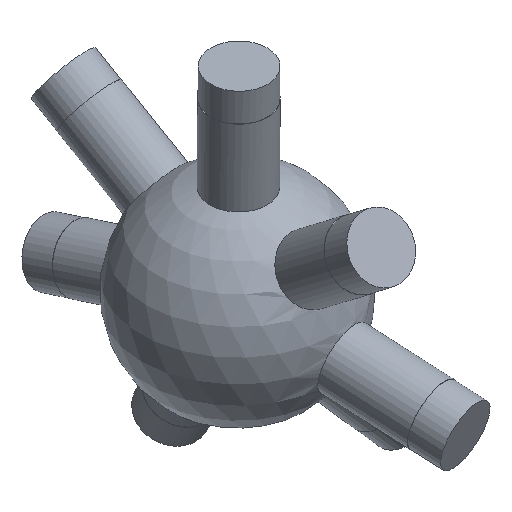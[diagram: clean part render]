
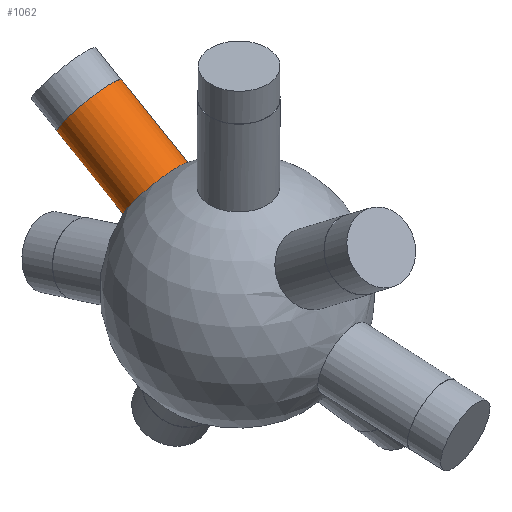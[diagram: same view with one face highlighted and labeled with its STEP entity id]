
A CAD part, isometric view. The second image highlights one B-rep face of the part: STEP entity #1062.
In plain terms, the highlighted cylindrical face has radius 6 mm (diameter 12 mm), a full revolution.
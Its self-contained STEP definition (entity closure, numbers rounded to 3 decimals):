
#33 = SPHERICAL_SURFACE('',#34,20.);
#34 = AXIS2_PLACEMENT_3D('',#35,#36,#37);
#35 = CARTESIAN_POINT('',(0.,0.,0.));
#36 = DIRECTION('',(0.,0.,1.));
#37 = DIRECTION('',(1.,0.,-0.));
#601 = EDGE_CURVE('',#602,#602,#604,.T.);
#602 = VERTEX_POINT('',#603);
#603 = CARTESIAN_POINT('',(-0.911,12.468,
    15.612));
#604 = SURFACE_CURVE('',#605,(#610,#679),.PCURVE_S1.);
#605 = CIRCLE('',#606,6.);
#606 = AXIS2_PLACEMENT_3D('',#607,#608,#609);
#607 = CARTESIAN_POINT('',(-0.911,15.815,
    10.632));
#608 = DIRECTION('',(-0.048,0.829,0.557)
  );
#609 = DIRECTION('',(0.,-0.558,0.83)
  );
#610 = PCURVE('',#33,#611);
#611 = DEFINITIONAL_REPRESENTATION('',(#612),#678);
#612 = B_SPLINE_CURVE_WITH_KNOTS('',8,(#613,#614,#615,#616,#617,#618,
    #619,#620,#621,#622,#623,#624,#625,#626,#627,#628,#629,#630,#631,
    #632,#633,#634,#635,#636,#637,#638,#639,#640,#641,#642,#643,#644,
    #645,#646,#647,#648,#649,#650,#651,#652,#653,#654,#655,#656,#657,
    #658,#659,#660,#661,#662,#663,#664,#665,#666,#667,#668,#669,#670,
    #671,#672,#673,#674,#675,#676,#677),.UNSPECIFIED.,.T.,.F.,(9,7,7,7,7
    ,7,7,7,7,9),(0.,0.393,1.129,1.773,
    2.901,3.746,4.381,5.332,
    5.808,6.283),.UNSPECIFIED.);
#613 = CARTESIAN_POINT('',(1.644,0.896));
#614 = CARTESIAN_POINT('',(1.62,0.896));
#615 = CARTESIAN_POINT('',(1.597,0.896));
#616 = CARTESIAN_POINT('',(1.573,0.894));
#617 = CARTESIAN_POINT('',(1.55,0.892));
#618 = CARTESIAN_POINT('',(1.527,0.888));
#619 = CARTESIAN_POINT('',(1.505,0.883));
#620 = CARTESIAN_POINT('',(1.484,0.877));
#621 = CARTESIAN_POINT('',(1.425,0.858));
#622 = CARTESIAN_POINT('',(1.39,0.842));
#623 = CARTESIAN_POINT('',(1.359,0.823));
#624 = CARTESIAN_POINT('',(1.333,0.802));
#625 = CARTESIAN_POINT('',(1.311,0.779));
#626 = CARTESIAN_POINT('',(1.294,0.754));
#627 = CARTESIAN_POINT('',(1.281,0.728));
#628 = CARTESIAN_POINT('',(1.263,0.678));
#629 = CARTESIAN_POINT('',(1.258,0.654));
#630 = CARTESIAN_POINT('',(1.256,0.63));
#631 = CARTESIAN_POINT('',(1.257,0.605));
#632 = CARTESIAN_POINT('',(1.26,0.581));
#633 = CARTESIAN_POINT('',(1.265,0.557));
#634 = CARTESIAN_POINT('',(1.273,0.534));
#635 = CARTESIAN_POINT('',(1.299,0.472));
#636 = CARTESIAN_POINT('',(1.322,0.434));
#637 = CARTESIAN_POINT('',(1.35,0.4));
#638 = CARTESIAN_POINT('',(1.383,0.369));
#639 = CARTESIAN_POINT('',(1.42,0.343));
#640 = CARTESIAN_POINT('',(1.459,0.322));
#641 = CARTESIAN_POINT('',(1.501,0.306));
#642 = CARTESIAN_POINT('',(1.576,0.289));
#643 = CARTESIAN_POINT('',(1.609,0.284));
#644 = CARTESIAN_POINT('',(1.642,0.284));
#645 = CARTESIAN_POINT('',(1.675,0.286));
#646 = CARTESIAN_POINT('',(1.708,0.292));
#647 = CARTESIAN_POINT('',(1.74,0.301));
#648 = CARTESIAN_POINT('',(1.771,0.313));
#649 = CARTESIAN_POINT('',(1.823,0.339));
#650 = CARTESIAN_POINT('',(1.844,0.352));
#651 = CARTESIAN_POINT('',(1.865,0.367));
#652 = CARTESIAN_POINT('',(1.884,0.383));
#653 = CARTESIAN_POINT('',(1.902,0.4));
#654 = CARTESIAN_POINT('',(1.918,0.419));
#655 = CARTESIAN_POINT('',(1.933,0.438));
#656 = CARTESIAN_POINT('',(1.966,0.49));
#657 = CARTESIAN_POINT('',(1.982,0.523));
#658 = CARTESIAN_POINT('',(1.994,0.557));
#659 = CARTESIAN_POINT('',(2.002,0.593));
#660 = CARTESIAN_POINT('',(2.003,0.629));
#661 = CARTESIAN_POINT('',(1.999,0.665));
#662 = CARTESIAN_POINT('',(1.989,0.701));
#663 = CARTESIAN_POINT('',(1.962,0.75));
#664 = CARTESIAN_POINT('',(1.952,0.766));
#665 = CARTESIAN_POINT('',(1.94,0.782));
#666 = CARTESIAN_POINT('',(1.925,0.797));
#667 = CARTESIAN_POINT('',(1.909,0.811));
#668 = CARTESIAN_POINT('',(1.891,0.824));
#669 = CARTESIAN_POINT('',(1.872,0.836));
#670 = CARTESIAN_POINT('',(1.829,0.858));
#671 = CARTESIAN_POINT('',(1.806,0.868));
#672 = CARTESIAN_POINT('',(1.781,0.876));
#673 = CARTESIAN_POINT('',(1.756,0.883));
#674 = CARTESIAN_POINT('',(1.729,0.889));
#675 = CARTESIAN_POINT('',(1.701,0.892));
#676 = CARTESIAN_POINT('',(1.672,0.895));
#677 = CARTESIAN_POINT('',(1.644,0.896));
#678 = ( GEOMETRIC_REPRESENTATION_CONTEXT(2) 
PARAMETRIC_REPRESENTATION_CONTEXT() REPRESENTATION_CONTEXT('2D SPACE',''
  ) );
#679 = PCURVE('',#680,#685);
#680 = CYLINDRICAL_SURFACE('',#681,6.);
#681 = AXIS2_PLACEMENT_3D('',#682,#683,#684);
#682 = CARTESIAN_POINT('',(0.,0.,0.));
#683 = DIRECTION('',(-0.048,0.829,0.557)
  );
#684 = DIRECTION('',(0.,-0.558,0.83)
  );
#685 = DEFINITIONAL_REPRESENTATION('',(#686),#690);
#686 = LINE('',#687,#688);
#687 = CARTESIAN_POINT('',(0.,19.079));
#688 = VECTOR('',#689,1.);
#689 = DIRECTION('',(1.,0.));
#690 = ( GEOMETRIC_REPRESENTATION_CONTEXT(2) 
PARAMETRIC_REPRESENTATION_CONTEXT() REPRESENTATION_CONTEXT('2D SPACE',''
  ) );
#1062 = ADVANCED_FACE('',(#1063),#680,.T.);
#1063 = FACE_BOUND('',#1064,.T.);
#1064 = EDGE_LOOP('',(#1065,#1088,#1115,#1116));
#1065 = ORIENTED_EDGE('',*,*,#1066,.T.);
#1066 = EDGE_CURVE('',#602,#1067,#1069,.T.);
#1067 = VERTEX_POINT('',#1068);
#1068 = CARTESIAN_POINT('',(-1.656,25.392,
    24.3));
#1069 = SEAM_CURVE('',#1070,(#1074,#1081),.PCURVE_S1.);
#1070 = LINE('',#1071,#1072);
#1071 = CARTESIAN_POINT('',(0.,-3.348,
    4.979));
#1072 = VECTOR('',#1073,1.);
#1073 = DIRECTION('',(-0.048,0.829,0.557)
  );
#1074 = PCURVE('',#680,#1075);
#1075 = DEFINITIONAL_REPRESENTATION('',(#1076),#1080);
#1076 = LINE('',#1077,#1078);
#1077 = CARTESIAN_POINT('',(6.283,-0.));
#1078 = VECTOR('',#1079,1.);
#1079 = DIRECTION('',(0.,1.));
#1080 = ( GEOMETRIC_REPRESENTATION_CONTEXT(2) 
PARAMETRIC_REPRESENTATION_CONTEXT() REPRESENTATION_CONTEXT('2D SPACE',''
  ) );
#1081 = PCURVE('',#680,#1082);
#1082 = DEFINITIONAL_REPRESENTATION('',(#1083),#1087);
#1083 = LINE('',#1084,#1085);
#1084 = CARTESIAN_POINT('',(0.,-0.));
#1085 = VECTOR('',#1086,1.);
#1086 = DIRECTION('',(0.,1.));
#1087 = ( GEOMETRIC_REPRESENTATION_CONTEXT(2) 
PARAMETRIC_REPRESENTATION_CONTEXT() REPRESENTATION_CONTEXT('2D SPACE',''
  ) );
#1088 = ORIENTED_EDGE('',*,*,#1089,.F.);
#1089 = EDGE_CURVE('',#1067,#1067,#1090,.T.);
#1090 = SURFACE_CURVE('',#1091,(#1096,#1103),.PCURVE_S1.);
#1091 = CIRCLE('',#1092,6.);
#1092 = AXIS2_PLACEMENT_3D('',#1093,#1094,#1095);
#1093 = CARTESIAN_POINT('',(-1.656,28.739,
    19.321));
#1094 = DIRECTION('',(-0.048,0.829,0.557)
  );
#1095 = DIRECTION('',(0.,-0.558,0.83
    ));
#1096 = PCURVE('',#680,#1097);
#1097 = DEFINITIONAL_REPRESENTATION('',(#1098),#1102);
#1098 = LINE('',#1099,#1100);
#1099 = CARTESIAN_POINT('',(0.,34.67));
#1100 = VECTOR('',#1101,1.);
#1101 = DIRECTION('',(1.,0.));
#1102 = ( GEOMETRIC_REPRESENTATION_CONTEXT(2) 
PARAMETRIC_REPRESENTATION_CONTEXT() REPRESENTATION_CONTEXT('2D SPACE',''
  ) );
#1103 = PCURVE('',#1104,#1109);
#1104 = PLANE('',#1105);
#1105 = AXIS2_PLACEMENT_3D('',#1106,#1107,#1108);
#1106 = CARTESIAN_POINT('',(-1.656,28.739,
    19.321));
#1107 = DIRECTION('',(-0.048,0.829,0.557)
  );
#1108 = DIRECTION('',(0.,-0.558,0.83
    ));
#1109 = DEFINITIONAL_REPRESENTATION('',(#1110),#1114);
#1110 = CIRCLE('',#1111,6.);
#1111 = AXIS2_PLACEMENT_2D('',#1112,#1113);
#1112 = CARTESIAN_POINT('',(0.,0.));
#1113 = DIRECTION('',(1.,0.));
#1114 = ( GEOMETRIC_REPRESENTATION_CONTEXT(2) 
PARAMETRIC_REPRESENTATION_CONTEXT() REPRESENTATION_CONTEXT('2D SPACE',''
  ) );
#1115 = ORIENTED_EDGE('',*,*,#1066,.F.);
#1116 = ORIENTED_EDGE('',*,*,#601,.T.);
